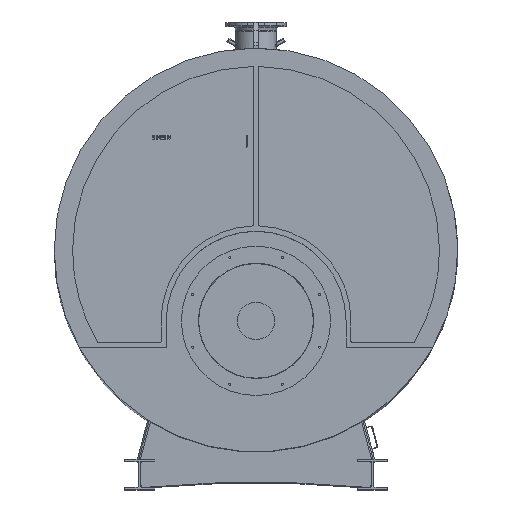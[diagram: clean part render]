
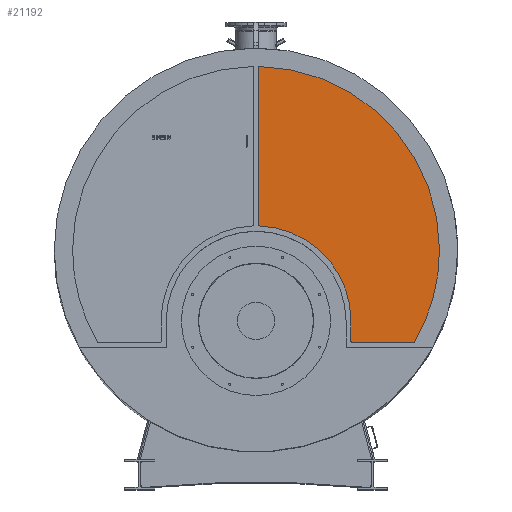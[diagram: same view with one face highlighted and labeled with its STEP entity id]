
A CAD part, top view. The second image highlights one B-rep face of the part: STEP entity #21192.
In plain terms, the highlighted planar face has unit normal (0, 0, 1).
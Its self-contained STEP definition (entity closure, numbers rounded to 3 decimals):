
#20946=CARTESIAN_POINT('',(15.,166.656,333.));
#20947=VERTEX_POINT('',#20946);
#20954=CARTESIAN_POINT('',(15.,1222.82,333.));
#20955=VERTEX_POINT('',#20954);
#20956=CARTESIAN_POINT('',(15.,1222.82,333.));
#20957=DIRECTION('',(-0.,-1.,0.));
#20958=VECTOR('',#20957,1056.163);
#20959=LINE('',#20956,#20958);
#20960=EDGE_CURVE('',#20955,#20947,#20959,.T.);
#20976=CARTESIAN_POINT('',(20.804,160.66,333.));
#20977=VERTEX_POINT('',#20976);
#20978=CARTESIAN_POINT('',(636.,-475.,333.));
#20979=VERTEX_POINT('',#20978);
#20980=CARTESIAN_POINT('',(0.,-475.,333.));
#20981=DIRECTION('',(0.,0.,-1.));
#20982=DIRECTION('',(1.,0.,0.));
#20983=AXIS2_PLACEMENT_3D('',#20980,#20981,#20982);
#20984=CIRCLE('',#20983,636.);
#20985=EDGE_CURVE('',#20977,#20979,#20984,.T.);
#21009=CARTESIAN_POINT('',(636.,-613.,333.));
#21010=VERTEX_POINT('',#21009);
#21017=CARTESIAN_POINT('',(636.,-475.,333.));
#21018=DIRECTION('',(0.,-1.,0.));
#21019=VECTOR('',#21018,138.);
#21020=LINE('',#21017,#21019);
#21021=EDGE_CURVE('',#20979,#21010,#21020,.T.);
#21033=CARTESIAN_POINT('',(1058.282,-619.,333.));
#21034=VERTEX_POINT('',#21033);
#21041=CARTESIAN_POINT('',(642.,-619.,333.));
#21042=VERTEX_POINT('',#21041);
#21043=CARTESIAN_POINT('',(642.,-619.,333.));
#21044=DIRECTION('',(1.,0.,-0.));
#21045=VECTOR('',#21044,416.282);
#21046=LINE('',#21043,#21045);
#21047=EDGE_CURVE('',#21042,#21034,#21046,.T.);
#21063=CARTESIAN_POINT('',(1229.,-0.,333.));
#21064=VERTEX_POINT('',#21063);
#21072=CARTESIAN_POINT('',(21.103,1228.819,333.));
#21073=VERTEX_POINT('',#21072);
#21080=CARTESIAN_POINT('',(0.,0.,333.));
#21081=DIRECTION('',(0.,0.,1.));
#21082=DIRECTION('',(1.,0.,-0.));
#21083=AXIS2_PLACEMENT_3D('',#21080,#21081,#21082);
#21084=CIRCLE('',#21083,1229.);
#21085=EDGE_CURVE('',#21064,#21073,#21084,.T.);
#21096=CARTESIAN_POINT('',(1063.474,-616.007,333.));
#21097=VERTEX_POINT('',#21096);
#21104=CARTESIAN_POINT('',(1058.282,-613.,333.));
#21105=DIRECTION('',(-0.,-0.,1.));
#21106=DIRECTION('',(-1.,0.,0.));
#21107=AXIS2_PLACEMENT_3D('',#21104,#21105,#21106);
#21108=CIRCLE('',#21107,6.);
#21109=EDGE_CURVE('',#21034,#21097,#21108,.T.);
#21122=CARTESIAN_POINT('',(642.,-613.,333.));
#21123=DIRECTION('',(-0.,-0.,1.));
#21124=DIRECTION('',(-1.,0.,0.));
#21125=AXIS2_PLACEMENT_3D('',#21122,#21123,#21124);
#21126=CIRCLE('',#21125,6.);
#21127=EDGE_CURVE('',#21010,#21042,#21126,.T.);
#21140=CARTESIAN_POINT('',(21.,166.656,333.));
#21141=DIRECTION('',(-0.,-0.,1.));
#21142=DIRECTION('',(-1.,0.,0.));
#21143=AXIS2_PLACEMENT_3D('',#21140,#21141,#21142);
#21144=CIRCLE('',#21143,6.);
#21145=EDGE_CURVE('',#20947,#20977,#21144,.T.);
#21158=CARTESIAN_POINT('',(21.,1222.82,333.));
#21159=DIRECTION('',(-0.,-0.,1.));
#21160=DIRECTION('',(-1.,0.,0.));
#21161=AXIS2_PLACEMENT_3D('',#21158,#21159,#21160);
#21162=CIRCLE('',#21161,6.);
#21163=EDGE_CURVE('',#21073,#20955,#21162,.T.);
#21169=CARTESIAN_POINT('',(948.077,723.923,333.));
#21170=DIRECTION('',(0.,0.,1.));
#21171=DIRECTION('',(1.,0.,0.));
#21172=AXIS2_PLACEMENT_3D('',#21169,#21170,#21171);
#21173=PLANE('',#21172);
#21174=ORIENTED_EDGE('',*,*,#21047,.T.);
#21175=ORIENTED_EDGE('',*,*,#21109,.T.);
#21176=CARTESIAN_POINT('',(0.,0.,333.));
#21177=DIRECTION('',(0.,0.,1.));
#21178=DIRECTION('',(1.,0.,-0.));
#21179=AXIS2_PLACEMENT_3D('',#21176,#21177,#21178);
#21180=CIRCLE('',#21179,1229.);
#21181=EDGE_CURVE('',#21097,#21064,#21180,.T.);
#21182=ORIENTED_EDGE('',*,*,#21181,.T.);
#21183=ORIENTED_EDGE('',*,*,#21085,.T.);
#21184=ORIENTED_EDGE('',*,*,#21163,.T.);
#21185=ORIENTED_EDGE('',*,*,#20960,.T.);
#21186=ORIENTED_EDGE('',*,*,#21145,.T.);
#21187=ORIENTED_EDGE('',*,*,#20985,.T.);
#21188=ORIENTED_EDGE('',*,*,#21021,.T.);
#21189=ORIENTED_EDGE('',*,*,#21127,.T.);
#21190=EDGE_LOOP('',(#21174,#21175,#21182,#21183,#21184,#21185,#21186,#21187,#21188,#21189));
#21191=FACE_BOUND('',#21190,.T.);
#21192=ADVANCED_FACE('',(#21191),#21173,.T.);
